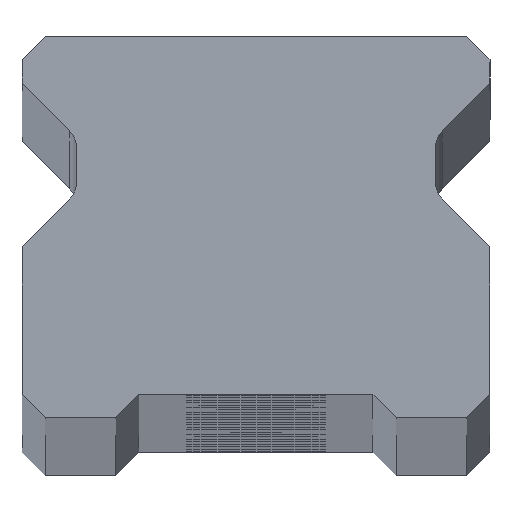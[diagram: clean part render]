
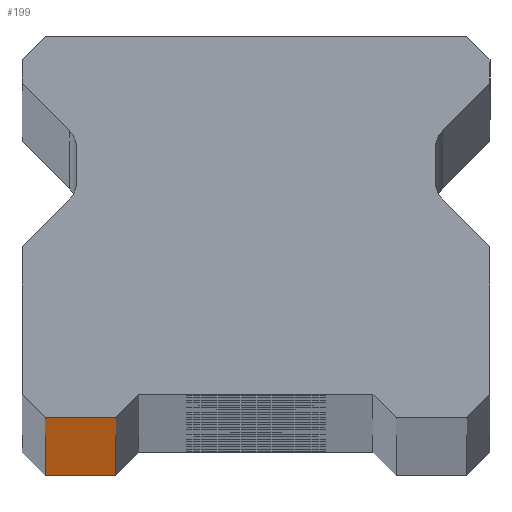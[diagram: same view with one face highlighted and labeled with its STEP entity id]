
A CAD part, top view. The second image highlights one B-rep face of the part: STEP entity #199.
In plain terms, the highlighted planar face has unit normal (0, -1, 0).
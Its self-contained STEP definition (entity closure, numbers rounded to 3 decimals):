
#199 = ADVANCED_FACE ( 'NONE', ( #224 ), #3958, .F. ) ;
#224 = FACE_OUTER_BOUND ( 'NONE', #4163, .T. ) ;
#421 = DIRECTION ( 'NONE',  ( -1., 0., 0. ) ) ;
#566 = DIRECTION ( 'NONE',  ( 0., 0., 1. ) ) ;
#587 = CARTESIAN_POINT ( 'NONE',  ( -9., 0., -710. ) ) ;
#771 = VERTEX_POINT ( 'NONE', #4382 ) ;
#837 = ORIENTED_EDGE ( 'NONE', *, *, #1113, .F. ) ;
#1093 = ORIENTED_EDGE ( 'NONE', *, *, #2276, .T. ) ;
#1113 = EDGE_CURVE ( 'NONE', #2808, #771, #2397, .T. ) ;
#1382 = CARTESIAN_POINT ( 'NONE',  ( -9., 0., 710. ) ) ;
#1458 = VERTEX_POINT ( 'NONE', #587 ) ;
#1807 = DIRECTION ( 'NONE',  ( 0., 0., -1. ) ) ;
#1819 = CARTESIAN_POINT ( 'NONE',  ( 10., 0., 710. ) ) ;
#1820 = CARTESIAN_POINT ( 'NONE',  ( 10., 0., -710. ) ) ;
#1988 = VERTEX_POINT ( 'NONE', #3294 ) ;
#2148 = DIRECTION ( 'NONE',  ( 0., 1., 0. ) ) ;
#2263 = VECTOR ( 'NONE', #1807, 1000. ) ;
#2276 = EDGE_CURVE ( 'NONE', #2808, #1458, #4268, .T. ) ;
#2397 = LINE ( 'NONE', #3766, #2562 ) ;
#2562 = VECTOR ( 'NONE', #4456, 1000. ) ;
#2579 = VECTOR ( 'NONE', #4302, 1000. ) ;
#2766 = CARTESIAN_POINT ( 'NONE',  ( -6., 0., -710. ) ) ;
#2808 = VERTEX_POINT ( 'NONE', #3591 ) ;
#2991 = ORIENTED_EDGE ( 'NONE', *, *, #4058, .T. ) ;
#3002 = AXIS2_PLACEMENT_3D ( 'NONE', #1819, #2148, #421 ) ;
#3141 = VECTOR ( 'NONE', #566, 1000. ) ;
#3237 = LINE ( 'NONE', #1820, #2579 ) ;
#3294 = CARTESIAN_POINT ( 'NONE',  ( -6., 0., -710. ) ) ;
#3522 = LINE ( 'NONE', #2766, #3141 ) ;
#3591 = CARTESIAN_POINT ( 'NONE',  ( -9., 0., 710. ) ) ;
#3766 = CARTESIAN_POINT ( 'NONE',  ( 10., 0., 710. ) ) ;
#3958 = PLANE ( 'NONE',  #3002 ) ;
#4058 = EDGE_CURVE ( 'NONE', #1988, #771, #3522, .T. ) ;
#4163 = EDGE_LOOP ( 'NONE', ( #4350, #2991, #837, #1093 ) ) ;
#4268 = LINE ( 'NONE', #1382, #2263 ) ;
#4302 = DIRECTION ( 'NONE',  ( 1., 0., 0. ) ) ;
#4350 = ORIENTED_EDGE ( 'NONE', *, *, #4396, .T. ) ;
#4382 = CARTESIAN_POINT ( 'NONE',  ( -6., 0., 710. ) ) ;
#4396 = EDGE_CURVE ( 'NONE', #1458, #1988, #3237, .T. ) ;
#4456 = DIRECTION ( 'NONE',  ( 1., 0., 0. ) ) ;
